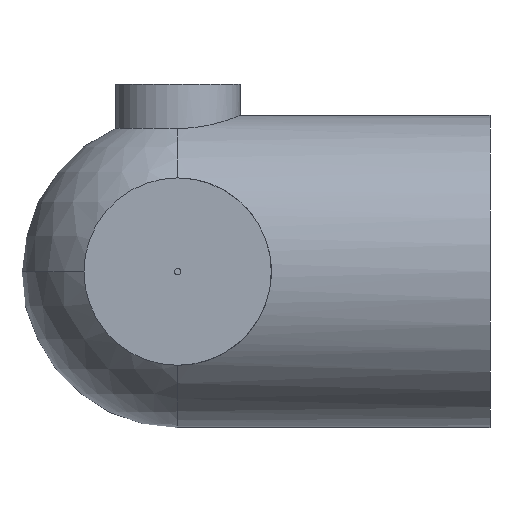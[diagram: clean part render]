
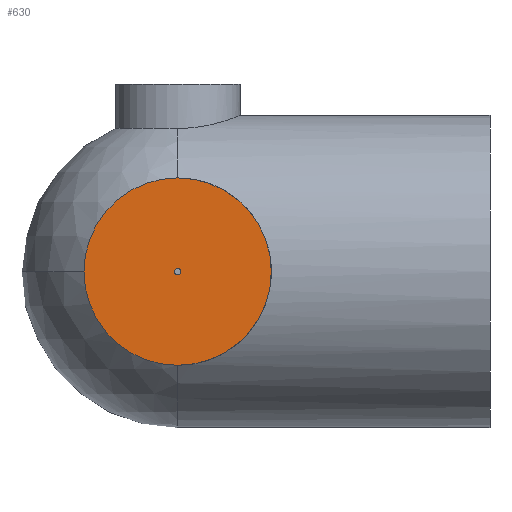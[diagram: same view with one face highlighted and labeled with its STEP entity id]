
A CAD part, front view. The second image highlights one B-rep face of the part: STEP entity #630.
In plain terms, the highlighted planar face has unit normal (0, -1, 0).
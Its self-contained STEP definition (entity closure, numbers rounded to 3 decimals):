
#28 = CARTESIAN_POINT ( 'NONE',  ( 0., -50., 0. ) ) ;
#67 = EDGE_CURVE ( 'NONE', #71, #73, #437, .T. ) ;
#71 = VERTEX_POINT ( 'NONE', #554 ) ;
#73 = VERTEX_POINT ( 'NONE', #609 ) ;
#87 = CARTESIAN_POINT ( 'NONE',  ( 0., -50., 0. ) ) ;
#90 = ORIENTED_EDGE ( 'NONE', *, *, #67, .F. ) ;
#105 = CIRCLE ( 'NONE', #136, 15. ) ;
#113 = ORIENTED_EDGE ( 'NONE', *, *, #169, .T. ) ;
#118 = DIRECTION ( 'NONE',  ( 0., -1., 0. ) ) ;
#136 = AXIS2_PLACEMENT_3D ( 'NONE', #87, #524, #305 ) ;
#147 = PLANE ( 'NONE',  #689 ) ;
#152 = EDGE_CURVE ( 'NONE', #281, #275, #190, .T. ) ;
#169 = EDGE_CURVE ( 'NONE', #275, #281, #105, .T. ) ;
#190 = CIRCLE ( 'NONE', #446, 15. ) ;
#192 = DIRECTION ( 'NONE',  ( 0., 0., -1. ) ) ;
#194 = DIRECTION ( 'NONE',  ( 0., 0., -1. ) ) ;
#228 = CIRCLE ( 'NONE', #306, 0.5 ) ;
#238 = AXIS2_PLACEMENT_3D ( 'NONE', #28, #661, #192 ) ;
#256 = DIRECTION ( 'NONE',  ( 0., 0., -1. ) ) ;
#261 = FACE_BOUND ( 'NONE', #295, .T. ) ;
#275 = VERTEX_POINT ( 'NONE', #366 ) ;
#281 = VERTEX_POINT ( 'NONE', #320 ) ;
#295 = EDGE_LOOP ( 'NONE', ( #492, #90 ) ) ;
#302 = DIRECTION ( 'NONE',  ( 0., -1., 0. ) ) ;
#305 = DIRECTION ( 'NONE',  ( 0., 0., -1. ) ) ;
#306 = AXIS2_PLACEMENT_3D ( 'NONE', #380, #118, #593 ) ;
#320 = CARTESIAN_POINT ( 'NONE',  ( 0., -50., 15. ) ) ;
#366 = CARTESIAN_POINT ( 'NONE',  ( 0., -50., -15. ) ) ;
#380 = CARTESIAN_POINT ( 'NONE',  ( 0., -50., 0. ) ) ;
#437 = CIRCLE ( 'NONE', #238, 0.5 ) ;
#446 = AXIS2_PLACEMENT_3D ( 'NONE', #571, #464, #194 ) ;
#456 = EDGE_CURVE ( 'NONE', #73, #71, #228, .T. ) ;
#464 = DIRECTION ( 'NONE',  ( 0., -1., 0. ) ) ;
#492 = ORIENTED_EDGE ( 'NONE', *, *, #456, .F. ) ;
#524 = DIRECTION ( 'NONE',  ( 0., -1., 0. ) ) ;
#554 = CARTESIAN_POINT ( 'NONE',  ( 0., -50., -0.5 ) ) ;
#571 = CARTESIAN_POINT ( 'NONE',  ( 0., -50., 0. ) ) ;
#572 = CARTESIAN_POINT ( 'NONE',  ( -15., -50., 0. ) ) ;
#593 = DIRECTION ( 'NONE',  ( 0., 0., -1. ) ) ;
#600 = EDGE_LOOP ( 'NONE', ( #113, #658 ) ) ;
#609 = CARTESIAN_POINT ( 'NONE',  ( 0., -50., 0.5 ) ) ;
#630 = ADVANCED_FACE ( 'NONE', ( #683, #261 ), #147, .T. ) ;
#658 = ORIENTED_EDGE ( 'NONE', *, *, #152, .T. ) ;
#661 = DIRECTION ( 'NONE',  ( 0., -1., 0. ) ) ;
#683 = FACE_OUTER_BOUND ( 'NONE', #600, .T. ) ;
#689 = AXIS2_PLACEMENT_3D ( 'NONE', #572, #302, #256 ) ;
